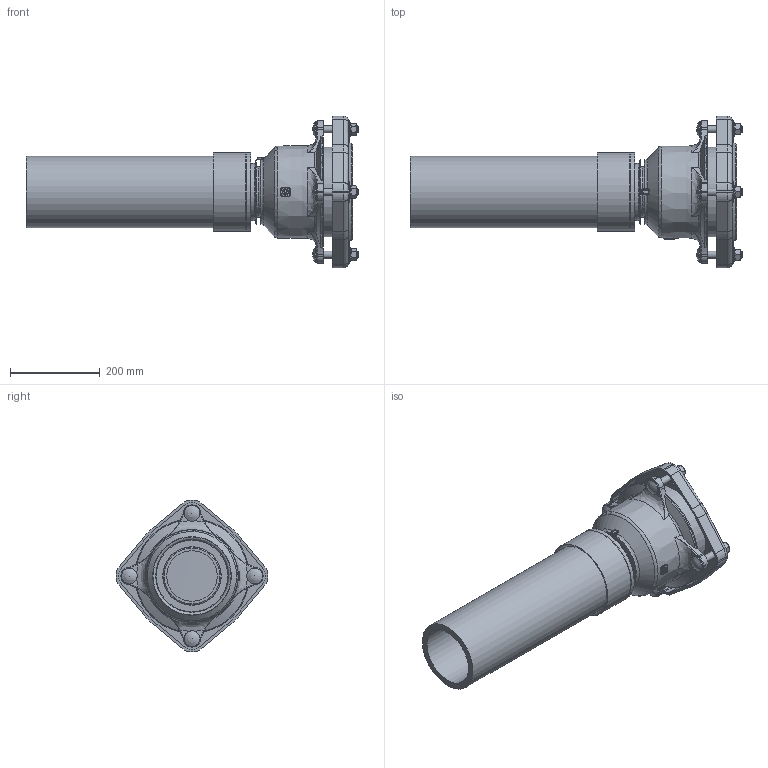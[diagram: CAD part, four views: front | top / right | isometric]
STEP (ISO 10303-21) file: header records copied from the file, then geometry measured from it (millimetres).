
FILE_DESCRIPTION((''),'2;1');
FILE_NAME('P:\Fastrack\54361_VIKING JOHNSON 3D\ULTRAGRIP\Component Parts\Components Built up\Pecatadaptor\150MMx160SDR11-UltraGrip-Pecat-Adaptor.stp','2012-05-09T11:40:10',('dcole'),(''),'Autodesk Inventor 2008','Autodesk Inventor 2008','');
FILE_SCHEMA(('AUTOMOTIVE_DESIGN { 1 0 10303 214 1 1 1 1 }'));
Length unit declared in the file: millimetre
Products named in the file (1): 150MMx160SDR11-UltraGrip-Pecat-Adaptor
Bounding box: 741.94 x 338.8 x 338.8 mm (x, y, z)
Surface area: 1067377.5 mm2 (no closed solid volume)
Topology: 0 solids, 1 shells, 803 faces, 2091 edges, 1327 vertices
Faces by surface type: plane 350, cylinder 211, bspline 97, cone 75, torus 70
Full cylindrical faces by diameter (mm): 13 x1, 15.7 x8, 16 x4, 30 x4, 35.2 x4, 112.908 x1, 127.558 x1, 130.8 x1, 160 x2, 162.6 x2, 176 x2, 191.7 x1, 193.7 x3, 201 x1, 241.07 x1
Entity records: 35287 total; most frequent: CARTESIAN_POINT 15712, ORIENTED_EDGE 3936, DIRECTION 3760, EDGE_CURVE 1968, AXIS2_PLACEMENT_3D 1396, VERTEX_POINT 1285, VECTOR 968, LINE 968
